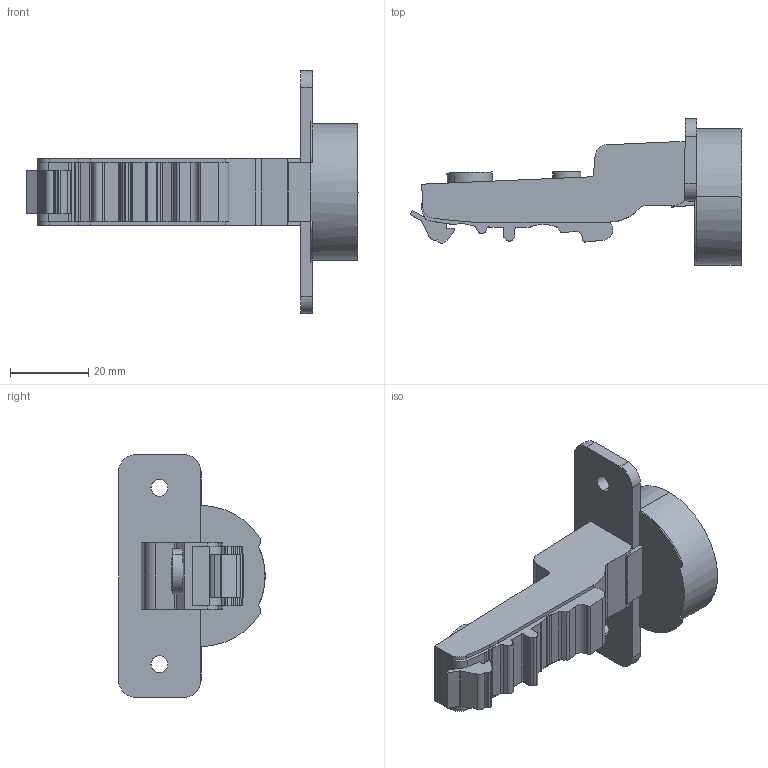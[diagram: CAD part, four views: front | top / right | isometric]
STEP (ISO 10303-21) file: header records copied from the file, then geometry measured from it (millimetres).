
FILE_DESCRIPTION (( 'STEP AP214' ), '1' );
FILE_NAME ('C82B675FA-Close.STEP', '2025-07-19T07:54:51', ( '微软用户' ), ( '微软中国' ), 'SwSTEP 2.0', 'SolidWorks 2021', '' );
FILE_SCHEMA (( 'AUTOMOTIVE_DESIGN' ));
Length unit declared in the file: millimetre
Products named in the file (1): C82B675FA-Close
Bounding box: 84.64 x 37.37 x 61.96 mm (x, y, z)
Volume: 31794.4 mm3; surface area: 10130.2 mm2
Topology: 1 solids, 1 shells, 132 faces, 384 edges, 256 vertices
Faces by surface type: plane 67, cylinder 65
Entity records: 4444 total; most frequent: CARTESIAN_POINT 791, DIRECTION 776, ORIENTED_EDGE 768, EDGE_CURVE 384, AXIS2_PLACEMENT_3D 265, VERTEX_POINT 256, LINE 246, VECTOR 246
